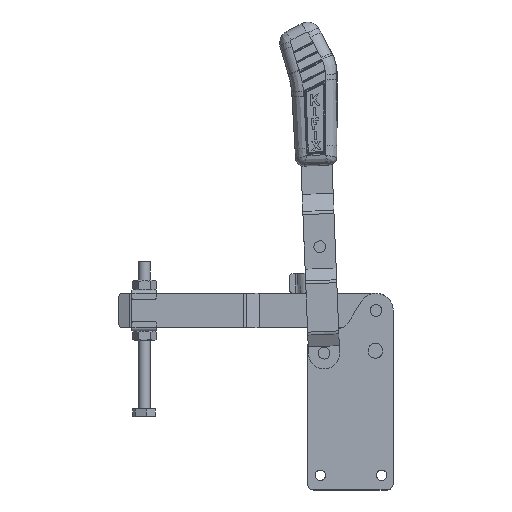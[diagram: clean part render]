
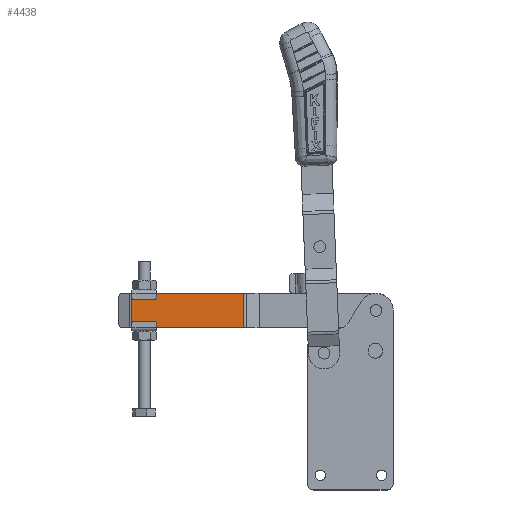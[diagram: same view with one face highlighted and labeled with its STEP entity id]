
A CAD part, top view. The second image highlights one B-rep face of the part: STEP entity #4438.
In plain terms, the highlighted planar face has unit normal (0, 0, 1).
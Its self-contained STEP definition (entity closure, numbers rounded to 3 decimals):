
#1876 = DIRECTION ( 'NONE',  ( 0., 1., 0. ) ) ;
#3038 = LINE ( 'NONE', #6677, #13294 ) ;
#4225 = CARTESIAN_POINT ( 'NONE',  ( -122.007, -14., 5.3 ) ) ;
#4438 = ADVANCED_FACE ( 'NONE', ( #26290 ), #19741, .T. ) ;
#5555 = ORIENTED_EDGE ( 'NONE', *, *, #23247, .F. ) ;
#6028 = EDGE_CURVE ( 'NONE', #11425, #22257, #8601, .T. ) ;
#6677 = CARTESIAN_POINT ( 'NONE',  ( -213.583, 0., 5.3 ) ) ;
#7526 = DIRECTION ( 'NONE',  ( 0., 0., 1. ) ) ;
#8264 = VECTOR ( 'NONE', #14028, 1000. ) ;
#8601 = LINE ( 'NONE', #11711, #18857 ) ;
#8913 = LINE ( 'NONE', #11970, #8264 ) ;
#9286 = ORIENTED_EDGE ( 'NONE', *, *, #11347, .T. ) ;
#9678 = DIRECTION ( 'NONE',  ( 1., 0., 0. ) ) ;
#11347 = EDGE_CURVE ( 'NONE', #22257, #12550, #11642, .T. ) ;
#11425 = VERTEX_POINT ( 'NONE', #12331 ) ;
#11642 = LINE ( 'NONE', #26438, #16464 ) ;
#11711 = CARTESIAN_POINT ( 'NONE',  ( -13.273, -14., 5.3 ) ) ;
#11970 = CARTESIAN_POINT ( 'NONE',  ( -13.273, 14., 5.3 ) ) ;
#12331 = CARTESIAN_POINT ( 'NONE',  ( -213.583, -14., 5.3 ) ) ;
#12550 = VERTEX_POINT ( 'NONE', #13239 ) ;
#12847 = DIRECTION ( 'NONE',  ( 0., 1., 0. ) ) ;
#13239 = CARTESIAN_POINT ( 'NONE',  ( -122.007, 14., 5.3 ) ) ;
#13294 = VECTOR ( 'NONE', #12847, 1000. ) ;
#14028 = DIRECTION ( 'NONE',  ( -1., 0., 0. ) ) ;
#15718 = EDGE_CURVE ( 'NONE', #12550, #21231, #8913, .T. ) ;
#15844 = AXIS2_PLACEMENT_3D ( 'NONE', #19843, #7526, #21910 ) ;
#16464 = VECTOR ( 'NONE', #1876, 1000. ) ;
#18857 = VECTOR ( 'NONE', #9678, 1000. ) ;
#19619 = ORIENTED_EDGE ( 'NONE', *, *, #15718, .T. ) ;
#19741 = PLANE ( 'NONE',  #15844 ) ;
#19843 = CARTESIAN_POINT ( 'NONE',  ( -13.273, 0., 5.3 ) ) ;
#21020 = CARTESIAN_POINT ( 'NONE',  ( -213.583, 14., 5.3 ) ) ;
#21231 = VERTEX_POINT ( 'NONE', #21020 ) ;
#21910 = DIRECTION ( 'NONE',  ( 1., 0., 0. ) ) ;
#22257 = VERTEX_POINT ( 'NONE', #4225 ) ;
#23247 = EDGE_CURVE ( 'NONE', #11425, #21231, #3038, .T. ) ;
#25151 = ORIENTED_EDGE ( 'NONE', *, *, #6028, .T. ) ;
#26198 = EDGE_LOOP ( 'NONE', ( #5555, #25151, #9286, #19619 ) ) ;
#26290 = FACE_OUTER_BOUND ( 'NONE', #26198, .T. ) ;
#26438 = CARTESIAN_POINT ( 'NONE',  ( -122.007, 0., 5.3 ) ) ;
